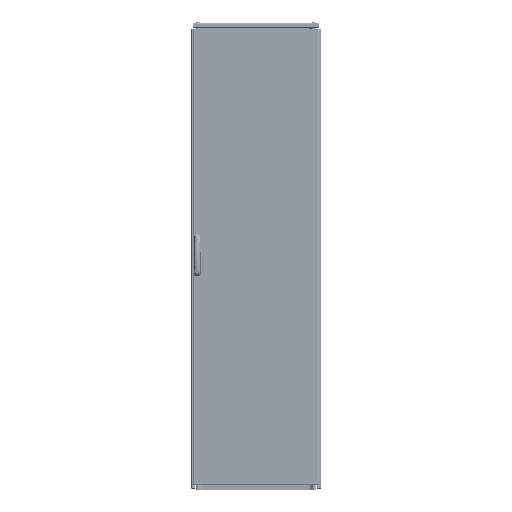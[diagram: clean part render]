
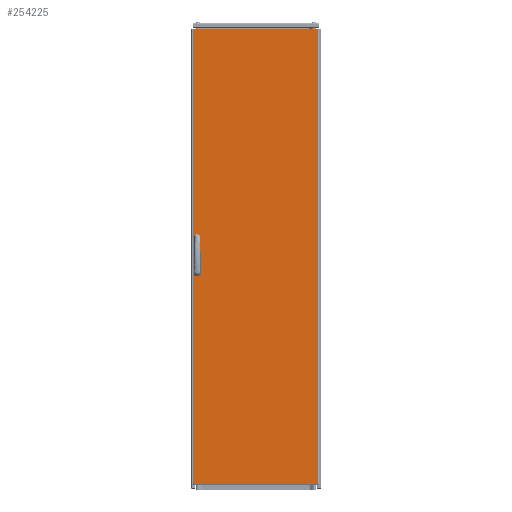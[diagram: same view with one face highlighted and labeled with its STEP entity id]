
A CAD part, top view. The second image highlights one B-rep face of the part: STEP entity #254225.
In plain terms, the highlighted planar face has unit normal (0, 0, 1).
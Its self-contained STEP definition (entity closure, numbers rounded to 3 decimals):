
#3399 = VERTEX_POINT ( 'NONE', #187665 ) ;
#3682 = EDGE_CURVE ( 'NONE', #276534, #356789, #85892, .T. ) ;
#9931 = ORIENTED_EDGE ( 'NONE', *, *, #93672, .T. ) ;
#11613 = ORIENTED_EDGE ( 'NONE', *, *, #76488, .T. ) ;
#16293 = AXIS2_PLACEMENT_3D ( 'NONE', #123620, #286772, #29883 ) ;
#16814 = DIRECTION ( 'NONE',  ( 0., 0., 1. ) ) ;
#19614 = ORIENTED_EDGE ( 'NONE', *, *, #187960, .T. ) ;
#20436 = ORIENTED_EDGE ( 'NONE', *, *, #3682, .F. ) ;
#20892 = CARTESIAN_POINT ( 'NONE',  ( 9.7, 1047.75, 19. ) ) ;
#21388 = CIRCLE ( 'NONE', #322900, 9.5 ) ;
#21416 = CARTESIAN_POINT ( 'NONE',  ( 592., 2157., 19. ) ) ;
#25948 = CARTESIAN_POINT ( 'NONE',  ( 3., 3., 19. ) ) ;
#26925 = CARTESIAN_POINT ( 'NONE',  ( 0., 2157., 19. ) ) ;
#27808 = DIRECTION ( 'NONE',  ( 1., 0., 0. ) ) ;
#29883 = DIRECTION ( 'NONE',  ( 1., 0., 0. ) ) ;
#30177 = CARTESIAN_POINT ( 'NONE',  ( 9.7, 999.75, 19. ) ) ;
#35295 = VECTOR ( 'NONE', #249810, 1000. ) ;
#35592 = ORIENTED_EDGE ( 'NONE', *, *, #296415, .F. ) ;
#43068 = VERTEX_POINT ( 'NONE', #48111 ) ;
#48111 = CARTESIAN_POINT ( 'NONE',  ( 9.7, 1112.25, 19. ) ) ;
#49598 = ORIENTED_EDGE ( 'NONE', *, *, #155607, .F. ) ;
#53077 = EDGE_LOOP ( 'NONE', ( #19614, #9931, #215250, #11613 ) ) ;
#60168 = DIRECTION ( 'NONE',  ( 0., 1., 0. ) ) ;
#63769 = LINE ( 'NONE', #119943, #139788 ) ;
#75834 = CARTESIAN_POINT ( 'NONE',  ( 592., 2160., 19. ) ) ;
#76488 = EDGE_CURVE ( 'NONE', #86810, #82207, #162416, .T. ) ;
#82207 = VERTEX_POINT ( 'NONE', #332537 ) ;
#85892 = CIRCLE ( 'NONE', #288492, 9.5 ) ;
#86810 = VERTEX_POINT ( 'NONE', #25948 ) ;
#87907 = CARTESIAN_POINT ( 'NONE',  ( 28.7, 1112.25, 19. ) ) ;
#93672 = EDGE_CURVE ( 'NONE', #321702, #3399, #300774, .T. ) ;
#96698 = CARTESIAN_POINT ( 'NONE',  ( 19.2, 999.75, 19. ) ) ;
#102545 = FACE_BOUND ( 'NONE', #315004, .T. ) ;
#104355 = FACE_OUTER_BOUND ( 'NONE', #53077, .T. ) ;
#105794 = VERTEX_POINT ( 'NONE', #273310 ) ;
#114738 = VECTOR ( 'NONE', #125934, 1000. ) ;
#115230 = VERTEX_POINT ( 'NONE', #117427 ) ;
#117427 = CARTESIAN_POINT ( 'NONE',  ( 28.7, 1047.75, 19. ) ) ;
#119943 = CARTESIAN_POINT ( 'NONE',  ( 28.7, 1047.75, 19. ) ) ;
#120438 = LINE ( 'NONE', #225716, #204878 ) ;
#123620 = CARTESIAN_POINT ( 'NONE',  ( 19.2, 1160.25, 19. ) ) ;
#125934 = DIRECTION ( 'NONE',  ( 0., 1., 0. ) ) ;
#126440 = ORIENTED_EDGE ( 'NONE', *, *, #172584, .F. ) ;
#130189 = LINE ( 'NONE', #75834, #266137 ) ;
#131514 = FACE_BOUND ( 'NONE', #177124, .T. ) ;
#133459 = VECTOR ( 'NONE', #267677, 1000. ) ;
#139208 = VERTEX_POINT ( 'NONE', #235062 ) ;
#139788 = VECTOR ( 'NONE', #60168, 1000. ) ;
#140846 = LINE ( 'NONE', #331206, #225254 ) ;
#152046 = DIRECTION ( 'NONE',  ( 0., 1., 0. ) ) ;
#155607 = EDGE_CURVE ( 'NONE', #171013, #276534, #120438, .T. ) ;
#156876 = DIRECTION ( 'NONE',  ( 0., 0., 1. ) ) ;
#162416 = LINE ( 'NONE', #218600, #133459 ) ;
#165062 = EDGE_CURVE ( 'NONE', #3399, #86810, #273431, .T. ) ;
#165674 = CARTESIAN_POINT ( 'NONE',  ( 19.2, 1112.25, 19. ) ) ;
#171013 = VERTEX_POINT ( 'NONE', #20892 ) ;
#171309 = CIRCLE ( 'NONE', #321642, 9.5 ) ;
#172584 = EDGE_CURVE ( 'NONE', #139208, #105794, #224986, .T. ) ;
#173193 = EDGE_CURVE ( 'NONE', #105794, #43068, #140846, .T. ) ;
#177124 = EDGE_LOOP ( 'NONE', ( #49598, #35592, #218052, #20436 ) ) ;
#177237 = VECTOR ( 'NONE', #358745, 1000. ) ;
#184122 = PLANE ( 'NONE',  #328139 ) ;
#187665 = CARTESIAN_POINT ( 'NONE',  ( 3., 2157., 19. ) ) ;
#187960 = EDGE_CURVE ( 'NONE', #82207, #321702, #130189, .T. ) ;
#192112 = EDGE_CURVE ( 'NONE', #356789, #115230, #63769, .T. ) ;
#198472 = DIRECTION ( 'NONE',  ( 0., -1., 0. ) ) ;
#204878 = VECTOR ( 'NONE', #198472, 1000. ) ;
#207566 = LINE ( 'NONE', #263776, #114738 ) ;
#207873 = EDGE_CURVE ( 'NONE', #43068, #262605, #21388, .T. ) ;
#213134 = DIRECTION ( 'NONE',  ( 0., 0., -1. ) ) ;
#215250 = ORIENTED_EDGE ( 'NONE', *, *, #165062, .T. ) ;
#218052 = ORIENTED_EDGE ( 'NONE', *, *, #192112, .F. ) ;
#218600 = CARTESIAN_POINT ( 'NONE',  ( 0., 3., 19. ) ) ;
#224986 = CIRCLE ( 'NONE', #16293, 9.5 ) ;
#225254 = VECTOR ( 'NONE', #226050, 1000. ) ;
#225716 = CARTESIAN_POINT ( 'NONE',  ( 9.7, 1047.75, 19. ) ) ;
#226050 = DIRECTION ( 'NONE',  ( 0., -1., 0. ) ) ;
#234345 = ORIENTED_EDGE ( 'NONE', *, *, #207873, .F. ) ;
#235062 = CARTESIAN_POINT ( 'NONE',  ( 28.7, 1160.25, 19. ) ) ;
#249810 = DIRECTION ( 'NONE',  ( 0., -1., 0. ) ) ;
#254225 = ADVANCED_FACE ( 'NONE', ( #131514, #102545, #104355 ), #184122, .F. ) ;
#262605 = VERTEX_POINT ( 'NONE', #87907 ) ;
#263776 = CARTESIAN_POINT ( 'NONE',  ( 28.7, 1160.25, 19. ) ) ;
#266137 = VECTOR ( 'NONE', #152046, 1000. ) ;
#267477 = DIRECTION ( 'NONE',  ( 1., 0., 0. ) ) ;
#267677 = DIRECTION ( 'NONE',  ( 1., 0., 0. ) ) ;
#272745 = DIRECTION ( 'NONE',  ( 0., 0., 1. ) ) ;
#273310 = CARTESIAN_POINT ( 'NONE',  ( 9.7, 1160.25, 19. ) ) ;
#273431 = LINE ( 'NONE', #304141, #35295 ) ;
#276534 = VERTEX_POINT ( 'NONE', #30177 ) ;
#279704 = ORIENTED_EDGE ( 'NONE', *, *, #173193, .F. ) ;
#280165 = CARTESIAN_POINT ( 'NONE',  ( 28.7, 999.75, 19. ) ) ;
#286772 = DIRECTION ( 'NONE',  ( 0., 0., 1. ) ) ;
#288492 = AXIS2_PLACEMENT_3D ( 'NONE', #96698, #16814, #288871 ) ;
#288871 = DIRECTION ( 'NONE',  ( 1., 0., 0. ) ) ;
#294690 = CARTESIAN_POINT ( 'NONE',  ( 0., 2160., 19. ) ) ;
#296415 = EDGE_CURVE ( 'NONE', #115230, #171013, #171309, .T. ) ;
#298252 = DIRECTION ( 'NONE',  ( -1., 0., 0. ) ) ;
#300774 = LINE ( 'NONE', #26925, #177237 ) ;
#304141 = CARTESIAN_POINT ( 'NONE',  ( 3., 2160., 19. ) ) ;
#308868 = EDGE_CURVE ( 'NONE', #262605, #139208, #207566, .T. ) ;
#315004 = EDGE_LOOP ( 'NONE', ( #279704, #126440, #332250, #234345 ) ) ;
#321642 = AXIS2_PLACEMENT_3D ( 'NONE', #321777, #156876, #267477 ) ;
#321702 = VERTEX_POINT ( 'NONE', #21416 ) ;
#321777 = CARTESIAN_POINT ( 'NONE',  ( 19.2, 1047.75, 19. ) ) ;
#322900 = AXIS2_PLACEMENT_3D ( 'NONE', #165674, #272745, #27808 ) ;
#328139 = AXIS2_PLACEMENT_3D ( 'NONE', #294690, #213134, #298252 ) ;
#331206 = CARTESIAN_POINT ( 'NONE',  ( 9.7, 1160.25, 19. ) ) ;
#332250 = ORIENTED_EDGE ( 'NONE', *, *, #308868, .F. ) ;
#332537 = CARTESIAN_POINT ( 'NONE',  ( 592., 3., 19. ) ) ;
#356789 = VERTEX_POINT ( 'NONE', #280165 ) ;
#358745 = DIRECTION ( 'NONE',  ( -1., 0., 0. ) ) ;
